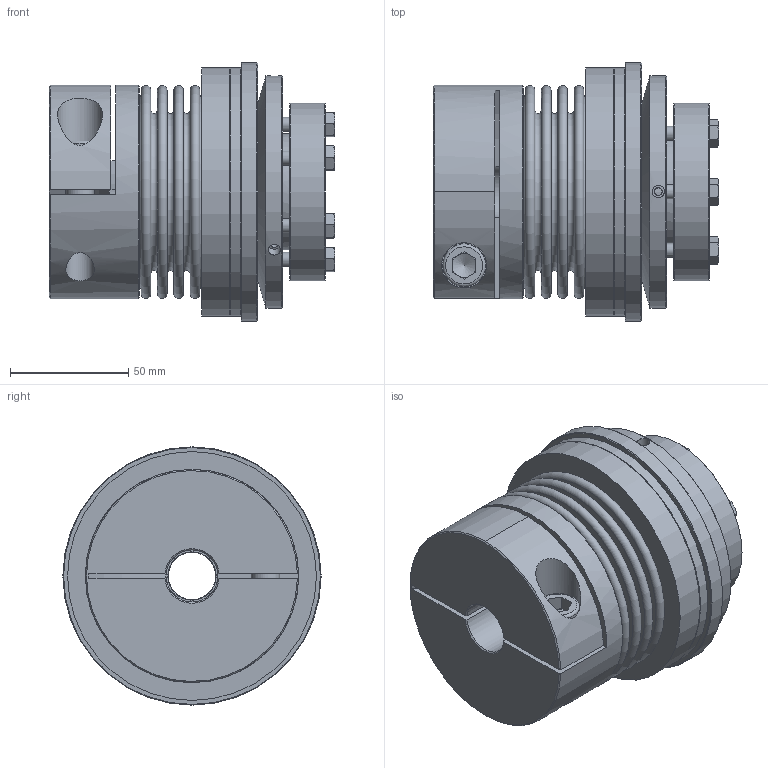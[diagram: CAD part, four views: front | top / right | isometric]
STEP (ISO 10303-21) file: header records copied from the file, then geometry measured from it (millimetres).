
FILE_DESCRIPTION( ( 'Unknown' ), '1' );
FILE_NAME( 'C:/Users/skarpstein/Desktop/Korrigierte 3D Modelle/KBK-B-KA/KBK-BKA-200-122.stp', 'Unknown', ( 'Unknown' ), ( 'Unknown' ), 'PSStep 16.0.42', 'Unknown', ' ' );
FILE_SCHEMA( ( 'AUTOMOTIVE_DESIGN { 1 0 10303 214 1 1 1 1 }' ) );
Length unit declared in the file: millimetre
Products named in the file (10): Assem1; Stellring 200; Druckring 200; Flansch BK200; KN200_Standard_2; Socket Head Cap Screw_DIN_DIN 912 M12 x 35 --- 35N_2; BK200_Standard_0; KBK L-A-200 Grundkörper; Druckring L-A-200; din_en_24017_m6x25_0_0
Assembly tree (14 placements, depth 2):
  Assem1
    Stellring 200
    Druckring 200
    Flansch BK200
    KN200_Standard_2
    Socket Head Cap Screw_DIN_DIN 912 M12 x 35 --- 35N_2
    BK200_Standard_0
    KBK L-A-200 Grundkörper
    Druckring L-A-200
    din_en_24017_m6x25_0_0  x6
Bounding box: 120.45 x 109 x 109 mm (x, y, z)
Volume: 571234.4 mm3; surface area: 191219.5 mm2
Topology: 14 solids, 14 shells, 326 faces, 686 edges, 440 vertices
Faces by surface type: plane 153, cone 80, cylinder 65, torus 28
Full cylindrical faces by diameter (mm): 3.242 x3, 4.917 x6, 5.2 x6, 6 x6, 6.6 x6, 8.8 x6, 12 x2, 12.5 x1, 18 x1, 19 x1, 20 x1, 22 x1, 47 x1, 49.29 x1, 50 x2, 60 x1, 62 x1, 65 x1, 66 x2, 75 x1, 77 x1, 79.2 x2, 80.4 x2, 90 x2, 98 x1, 105 x2, 109 x1
Entity records: 7559 total; most frequent: CARTESIAN_POINT 1435, DIRECTION 951, ORIENTED_EDGE 638, AXIS2_PLACEMENT_3D 438, EDGE_LOOP 386, EDGE_CURVE 319, FACE_OUTER_BOUND 288, VERTEX_POINT 268
